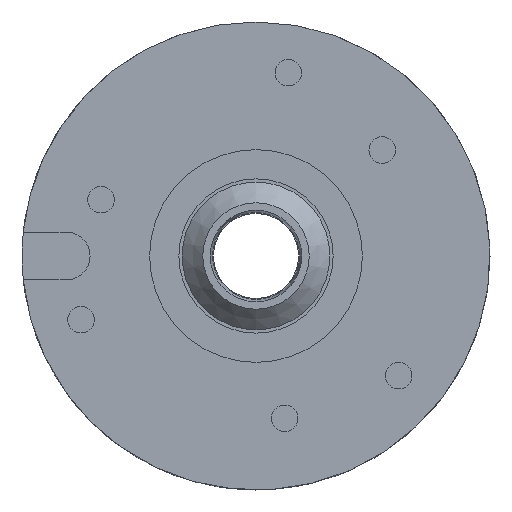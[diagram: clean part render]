
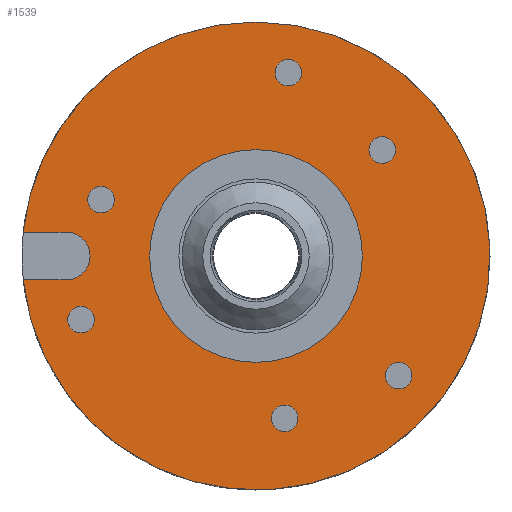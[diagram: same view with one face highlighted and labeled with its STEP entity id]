
A CAD part, left-side view. The second image highlights one B-rep face of the part: STEP entity #1539.
In plain terms, the highlighted planar face has unit normal (-1, 0, 0).
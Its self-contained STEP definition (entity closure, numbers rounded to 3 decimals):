
#12 = DIRECTION ( 'NONE',  ( 0., 0., -1. ) ) ;
#13 = LINE ( 'NONE', #1352, #1282 ) ;
#27 = FACE_BOUND ( 'NONE', #880, .T. ) ;
#64 = EDGE_CURVE ( 'NONE', #1274, #1274, #464, .T. ) ;
#89 = VERTEX_POINT ( 'NONE', #1588 ) ;
#122 = EDGE_CURVE ( 'NONE', #753, #1613, #1133, .T. ) ;
#151 = CARTESIAN_POINT ( 'NONE',  ( 0., 0., 0. ) ) ;
#167 = AXIS2_PLACEMENT_3D ( 'NONE', #803, #1435, #12 ) ;
#188 = VERTEX_POINT ( 'NONE', #194 ) ;
#192 = CARTESIAN_POINT ( 'NONE',  ( 0., -2.692, -15.265 ) ) ;
#194 = CARTESIAN_POINT ( 'NONE',  ( 0., -3.039, 18.484 ) ) ;
#212 = AXIS2_PLACEMENT_3D ( 'NONE', #1132, #1127, #374 ) ;
#236 = DIRECTION ( 'NONE',  ( 0., 0., 1. ) ) ;
#246 = CARTESIAN_POINT ( 'NONE',  ( 0., 16.445, -5.985 ) ) ;
#262 = CARTESIAN_POINT ( 'NONE',  ( 0., 15.6, 0. ) ) ;
#265 = VERTEX_POINT ( 'NONE', #957 ) ;
#266 = EDGE_CURVE ( 'NONE', #837, #837, #326, .T. ) ;
#267 = FACE_BOUND ( 'NONE', #638, .T. ) ;
#282 = ORIENTED_EDGE ( 'NONE', *, *, #607, .T. ) ;
#288 = PLANE ( 'NONE',  #167 ) ;
#301 = CARTESIAN_POINT ( 'NONE',  ( 0., -11.874, 9.963 ) ) ;
#324 = CARTESIAN_POINT ( 'NONE',  ( 0., 21.885, -2.25 ) ) ;
#326 = CIRCLE ( 'NONE', #555, 1.25 ) ;
#331 = EDGE_CURVE ( 'NONE', #512, #1266, #13, .T. ) ;
#371 = ORIENTED_EDGE ( 'NONE', *, *, #64, .F. ) ;
#373 = ORIENTED_EDGE ( 'NONE', *, *, #595, .F. ) ;
#374 = DIRECTION ( 'NONE',  ( 0., 0., 1. ) ) ;
#382 = LINE ( 'NONE', #1391, #593 ) ;
#384 = DIRECTION ( 'NONE',  ( 0., 0., -1. ) ) ;
#389 = CARTESIAN_POINT ( 'NONE',  ( 0., 17.85, 0. ) ) ;
#391 = EDGE_CURVE ( 'NONE', #1335, #1266, #726, .T. ) ;
#456 = CARTESIAN_POINT ( 'NONE',  ( 0., -13.406, -9.999 ) ) ;
#464 = CIRCLE ( 'NONE', #490, 1.25 ) ;
#468 = EDGE_LOOP ( 'NONE', ( #1578 ) ) ;
#490 = AXIS2_PLACEMENT_3D ( 'NONE', #1264, #764, #236 ) ;
#494 = CIRCLE ( 'NONE', #514, 1.25 ) ;
#512 = VERTEX_POINT ( 'NONE', #630 ) ;
#514 = AXIS2_PLACEMENT_3D ( 'NONE', #301, #667, #1187 ) ;
#520 = CIRCLE ( 'NONE', #813, 1.25 ) ;
#523 = DIRECTION ( 'NONE',  ( -1., 0., 0. ) ) ;
#535 = ORIENTED_EDGE ( 'NONE', *, *, #934, .F. ) ;
#544 = CIRCLE ( 'NONE', #1051, 10. ) ;
#555 = AXIS2_PLACEMENT_3D ( 'NONE', #192, #1459, #728 ) ;
#593 = VECTOR ( 'NONE', #775, 1000. ) ;
#595 = EDGE_CURVE ( 'NONE', #188, #188, #612, .T. ) ;
#598 = ORIENTED_EDGE ( 'NONE', *, *, #391, .T. ) ;
#607 = EDGE_CURVE ( 'NONE', #1613, #1335, #382, .T. ) ;
#609 = DIRECTION ( 'NONE',  ( 0., 1., 0. ) ) ;
#612 = CIRCLE ( 'NONE', #212, 1.25 ) ;
#622 = DIRECTION ( 'NONE',  ( 0., 0., 1. ) ) ;
#630 = CARTESIAN_POINT ( 'NONE',  ( 0., 17.85, 2.25 ) ) ;
#632 = DIRECTION ( 'NONE',  ( 1., 0., 0. ) ) ;
#638 = EDGE_LOOP ( 'NONE', ( #1480 ) ) ;
#667 = DIRECTION ( 'NONE',  ( -1., 0., 0. ) ) ;
#693 = EDGE_CURVE ( 'NONE', #512, #753, #1387, .T. ) ;
#708 = CARTESIAN_POINT ( 'NONE',  ( 0., -2.692, -14.015 ) ) ;
#709 = ORIENTED_EDGE ( 'NONE', *, *, #693, .T. ) ;
#721 = FACE_BOUND ( 'NONE', #1045, .T. ) ;
#726 = CIRCLE ( 'NONE', #1395, 22. ) ;
#728 = DIRECTION ( 'NONE',  ( 0., 0., 1. ) ) ;
#753 = VERTEX_POINT ( 'NONE', #262 ) ;
#764 = DIRECTION ( 'NONE',  ( -1., 0., 0. ) ) ;
#775 = DIRECTION ( 'NONE',  ( 0., 1., 0. ) ) ;
#795 = CARTESIAN_POINT ( 'NONE',  ( 0., 17.85, 0. ) ) ;
#803 = CARTESIAN_POINT ( 'NONE',  ( 0., 22., 0. ) ) ;
#809 = DIRECTION ( 'NONE',  ( 0., 0., -1. ) ) ;
#812 = EDGE_CURVE ( 'NONE', #89, #89, #544, .T. ) ;
#813 = AXIS2_PLACEMENT_3D ( 'NONE', #930, #1301, #1038 ) ;
#828 = EDGE_LOOP ( 'NONE', ( #535 ) ) ;
#837 = VERTEX_POINT ( 'NONE', #708 ) ;
#880 = EDGE_LOOP ( 'NONE', ( #373 ) ) ;
#927 = ORIENTED_EDGE ( 'NONE', *, *, #122, .T. ) ;
#930 = CARTESIAN_POINT ( 'NONE',  ( 0., -13.406, -11.249 ) ) ;
#934 = EDGE_CURVE ( 'NONE', #265, #265, #1526, .T. ) ;
#939 = CARTESIAN_POINT ( 'NONE',  ( 0., 17.85, -2.25 ) ) ;
#940 = DIRECTION ( 'NONE',  ( 0., 0., 1. ) ) ;
#957 = CARTESIAN_POINT ( 'NONE',  ( 0., 16.445, -4.735 ) ) ;
#971 = EDGE_LOOP ( 'NONE', ( #371 ) ) ;
#1000 = AXIS2_PLACEMENT_3D ( 'NONE', #389, #632, #384 ) ;
#1032 = FACE_BOUND ( 'NONE', #468, .T. ) ;
#1038 = DIRECTION ( 'NONE',  ( 0., 0., 1. ) ) ;
#1043 = ORIENTED_EDGE ( 'NONE', *, *, #331, .F. ) ;
#1045 = EDGE_LOOP ( 'NONE', ( #1199 ) ) ;
#1046 = EDGE_LOOP ( 'NONE', ( #1138 ) ) ;
#1048 = FACE_BOUND ( 'NONE', #971, .T. ) ;
#1051 = AXIS2_PLACEMENT_3D ( 'NONE', #151, #1463, #940 ) ;
#1108 = VERTEX_POINT ( 'NONE', #1325 ) ;
#1118 = DIRECTION ( 'NONE',  ( -1., 0., 0. ) ) ;
#1127 = DIRECTION ( 'NONE',  ( -1., 0., 0. ) ) ;
#1132 = CARTESIAN_POINT ( 'NONE',  ( 0., -3.039, 17.234 ) ) ;
#1133 = CIRCLE ( 'NONE', #1000, 2.25 ) ;
#1138 = ORIENTED_EDGE ( 'NONE', *, *, #812, .F. ) ;
#1163 = AXIS2_PLACEMENT_3D ( 'NONE', #246, #523, #1254 ) ;
#1164 = FACE_BOUND ( 'NONE', #1046, .T. ) ;
#1167 = DIRECTION ( 'NONE',  ( 1., 0., 0. ) ) ;
#1187 = DIRECTION ( 'NONE',  ( 0., 0., 1. ) ) ;
#1199 = ORIENTED_EDGE ( 'NONE', *, *, #1202, .F. ) ;
#1202 = EDGE_CURVE ( 'NONE', #1617, #1617, #520, .T. ) ;
#1254 = DIRECTION ( 'NONE',  ( 0., 0., 1. ) ) ;
#1264 = CARTESIAN_POINT ( 'NONE',  ( 0., 14.565, 5.301 ) ) ;
#1266 = VERTEX_POINT ( 'NONE', #1305 ) ;
#1274 = VERTEX_POINT ( 'NONE', #1561 ) ;
#1282 = VECTOR ( 'NONE', #609, 1000. ) ;
#1295 = FACE_BOUND ( 'NONE', #828, .T. ) ;
#1301 = DIRECTION ( 'NONE',  ( -1., 0., 0. ) ) ;
#1305 = CARTESIAN_POINT ( 'NONE',  ( 0., 21.885, 2.25 ) ) ;
#1325 = CARTESIAN_POINT ( 'NONE',  ( 0., -11.874, 11.213 ) ) ;
#1335 = VERTEX_POINT ( 'NONE', #324 ) ;
#1352 = CARTESIAN_POINT ( 'NONE',  ( 0., -8.322, 2.25 ) ) ;
#1376 = CARTESIAN_POINT ( 'NONE',  ( 0., 0., 0. ) ) ;
#1386 = AXIS2_PLACEMENT_3D ( 'NONE', #795, #1167, #809 ) ;
#1387 = CIRCLE ( 'NONE', #1386, 2.25 ) ;
#1390 = EDGE_LOOP ( 'NONE', ( #709, #927, #282, #598, #1043 ) ) ;
#1391 = CARTESIAN_POINT ( 'NONE',  ( 0., -8.322, -2.25 ) ) ;
#1395 = AXIS2_PLACEMENT_3D ( 'NONE', #1376, #1118, #622 ) ;
#1435 = DIRECTION ( 'NONE',  ( 1., 0., 0. ) ) ;
#1459 = DIRECTION ( 'NONE',  ( -1., 0., 0. ) ) ;
#1463 = DIRECTION ( 'NONE',  ( -1., 0., 0. ) ) ;
#1480 = ORIENTED_EDGE ( 'NONE', *, *, #266, .F. ) ;
#1526 = CIRCLE ( 'NONE', #1163, 1.25 ) ;
#1539 = ADVANCED_FACE ( 'NONE', ( #1295, #1048, #267, #721, #1032, #27, #1164, #1584 ), #288, .F. ) ;
#1561 = CARTESIAN_POINT ( 'NONE',  ( 0., 14.565, 6.551 ) ) ;
#1578 = ORIENTED_EDGE ( 'NONE', *, *, #1626, .F. ) ;
#1584 = FACE_OUTER_BOUND ( 'NONE', #1390, .T. ) ;
#1588 = CARTESIAN_POINT ( 'NONE',  ( 0., 0., 10. ) ) ;
#1613 = VERTEX_POINT ( 'NONE', #939 ) ;
#1617 = VERTEX_POINT ( 'NONE', #456 ) ;
#1626 = EDGE_CURVE ( 'NONE', #1108, #1108, #494, .T. ) ;
